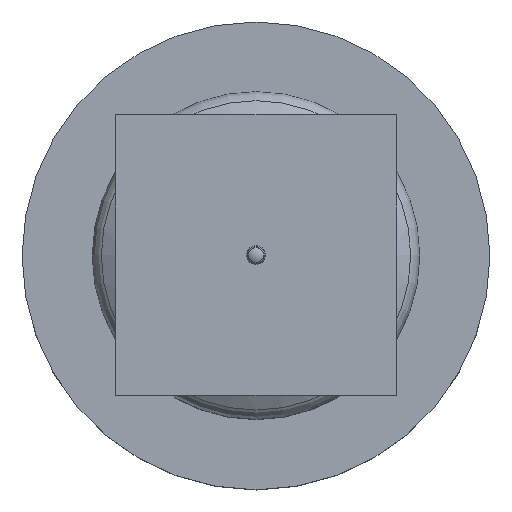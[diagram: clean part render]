
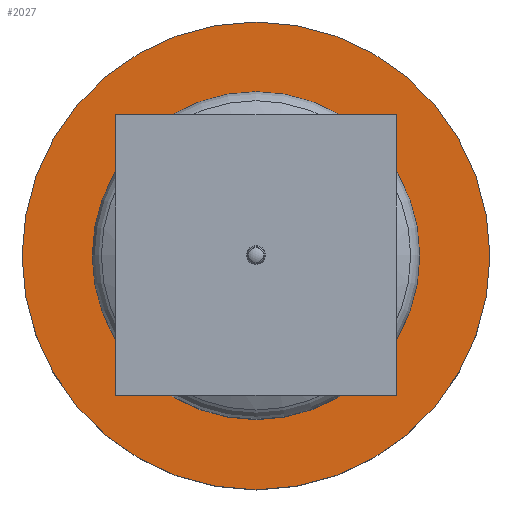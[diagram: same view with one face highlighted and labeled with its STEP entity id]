
A CAD part, top view. The second image highlights one B-rep face of the part: STEP entity #2027.
In plain terms, the highlighted planar face has unit normal (0, 0, 1).
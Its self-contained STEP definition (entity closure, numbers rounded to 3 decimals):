
#402 = AXIS2_PLACEMENT_3D ( 'NONE', #5786, #4408, #2949 ) ;
#507 = FACE_BOUND ( 'NONE', #5761, .T. ) ;
#509 = DIRECTION ( 'NONE',  ( 0., 0., -1. ) ) ;
#922 = DIRECTION ( 'NONE',  ( -1., 0., 0. ) ) ;
#1411 = CIRCLE ( 'NONE', #402, 25. ) ;
#1432 = AXIS2_PLACEMENT_3D ( 'NONE', #2715, #6232, #3230 ) ;
#1560 = AXIS2_PLACEMENT_3D ( 'NONE', #5490, #509, #922 ) ;
#1979 = PLANE ( 'NONE',  #1560 ) ;
#2027 = ADVANCED_FACE ( 'NONE', ( #507, #5733 ), #1979, .F. ) ;
#2116 = ORIENTED_EDGE ( 'NONE', *, *, #3854, .F. ) ;
#2385 = EDGE_CURVE ( 'NONE', #4909, #4909, #2453, .T. ) ;
#2453 = CIRCLE ( 'NONE', #1432, 17.5 ) ;
#2715 = CARTESIAN_POINT ( 'NONE',  ( 0., 0., 27. ) ) ;
#2877 = ORIENTED_EDGE ( 'NONE', *, *, #2385, .T. ) ;
#2944 = CARTESIAN_POINT ( 'NONE',  ( -25., 0., 27. ) ) ;
#2949 = DIRECTION ( 'NONE',  ( -1., 0., 0. ) ) ;
#3230 = DIRECTION ( 'NONE',  ( -1., 0., 0. ) ) ;
#3854 = EDGE_CURVE ( 'NONE', #5622, #5622, #1411, .T. ) ;
#3915 = CARTESIAN_POINT ( 'NONE',  ( -17.5, 0., 27. ) ) ;
#4408 = DIRECTION ( 'NONE',  ( 0., 0., -1. ) ) ;
#4909 = VERTEX_POINT ( 'NONE', #3915 ) ;
#5490 = CARTESIAN_POINT ( 'NONE',  ( 0., 0., 27. ) ) ;
#5622 = VERTEX_POINT ( 'NONE', #2944 ) ;
#5733 = FACE_OUTER_BOUND ( 'NONE', #5941, .T. ) ;
#5761 = EDGE_LOOP ( 'NONE', ( #2877 ) ) ;
#5786 = CARTESIAN_POINT ( 'NONE',  ( 0., 0., 27. ) ) ;
#5941 = EDGE_LOOP ( 'NONE', ( #2116 ) ) ;
#6232 = DIRECTION ( 'NONE',  ( 0., 0., -1. ) ) ;
